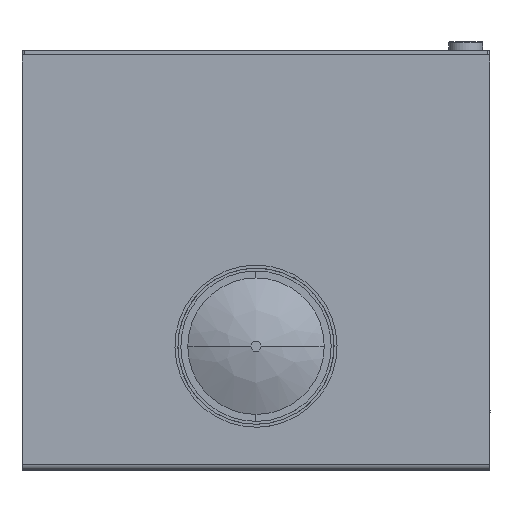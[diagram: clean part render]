
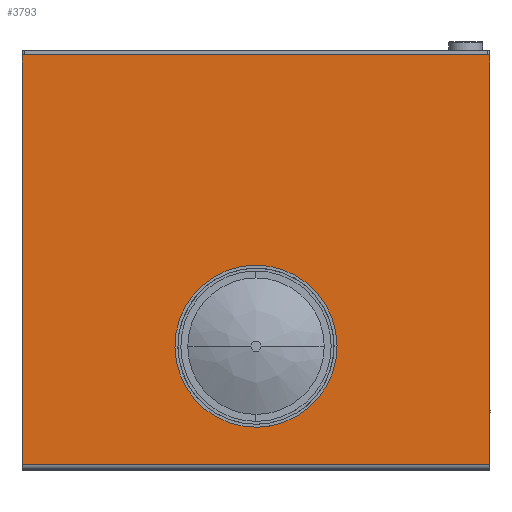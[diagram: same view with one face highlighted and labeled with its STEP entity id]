
A CAD part, top view. The second image highlights one B-rep face of the part: STEP entity #3793.
In plain terms, the highlighted planar face has unit normal (0, 0, 1) as drawn and (-1, 0, 0) by its records, which use the part's own axes.
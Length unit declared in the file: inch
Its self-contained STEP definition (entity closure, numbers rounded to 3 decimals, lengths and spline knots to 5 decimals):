
#260 = CARTESIAN_POINT ( 'NONE',  ( -0.375, 0.125, 48. ) ) ;
#331 = EDGE_CURVE ( 'NONE', #2954, #7187, #813, .T. ) ;
#362 = CARTESIAN_POINT ( 'NONE',  ( -0.375, 0., 48. ) ) ;
#468 = ORIENTED_EDGE ( 'NONE', *, *, #1565, .F. ) ;
#658 = LINE ( 'NONE', #1988, #4154 ) ;
#813 = LINE ( 'NONE', #8894, #7407 ) ;
#842 = EDGE_LOOP ( 'NONE', ( #4191, #5802, #7293, #2823 ) ) ;
#1028 = DIRECTION ( 'NONE',  ( 0., 0., 1. ) ) ;
#1055 = CARTESIAN_POINT ( 'NONE',  ( -0.375, 42.12, 48. ) ) ;
#1091 = DIRECTION ( 'NONE',  ( -1., 0., 0. ) ) ;
#1301 = DIRECTION ( 'NONE',  ( 1., 0., 0. ) ) ;
#1565 = EDGE_CURVE ( 'NONE', #6797, #8681, #4387, .T. ) ;
#1641 = CARTESIAN_POINT ( 'NONE',  ( -0.375, 0.125, 0. ) ) ;
#1988 = CARTESIAN_POINT ( 'NONE',  ( -0.375, 0., 48. ) ) ;
#2147 = EDGE_CURVE ( 'NONE', #6177, #7196, #658, .T. ) ;
#2823 = ORIENTED_EDGE ( 'NONE', *, *, #3914, .T. ) ;
#2954 = VERTEX_POINT ( 'NONE', #4009 ) ;
#3553 = LINE ( 'NONE', #6049, #3763 ) ;
#3763 = VECTOR ( 'NONE', #8046, 39.37008 ) ;
#3793 = ADVANCED_FACE ( 'NONE', ( #4003, #7953 ), #8769, .F. ) ;
#3914 = EDGE_CURVE ( 'NONE', #6177, #2954, #5214, .T. ) ;
#3958 = DIRECTION ( 'NONE',  ( 0., 0., -1. ) ) ;
#4003 = FACE_BOUND ( 'NONE', #6862, .T. ) ;
#4009 = CARTESIAN_POINT ( 'NONE',  ( -0.375, 42.12, 0. ) ) ;
#4154 = VECTOR ( 'NONE', #6136, 39.37008 ) ;
#4191 = ORIENTED_EDGE ( 'NONE', *, *, #331, .T. ) ;
#4387 = CIRCLE ( 'NONE', #8370, 7. ) ;
#4490 = CARTESIAN_POINT ( 'NONE',  ( -0.375, 12.25, 24. ) ) ;
#5195 = CARTESIAN_POINT ( 'NONE',  ( -0.375, 12.25, 17. ) ) ;
#5214 = LINE ( 'NONE', #6975, #6648 ) ;
#5243 = DIRECTION ( 'NONE',  ( -1., 0., 0. ) ) ;
#5802 = ORIENTED_EDGE ( 'NONE', *, *, #6692, .F. ) ;
#6030 = DIRECTION ( 'NONE',  ( 0., 0., 1. ) ) ;
#6049 = CARTESIAN_POINT ( 'NONE',  ( -0.375, 0.125, 48. ) ) ;
#6136 = DIRECTION ( 'NONE',  ( 0., -1., 0. ) ) ;
#6177 = VERTEX_POINT ( 'NONE', #1055 ) ;
#6368 = DIRECTION ( 'NONE',  ( 0., 0., -1. ) ) ;
#6648 = VECTOR ( 'NONE', #6368, 39.37008 ) ;
#6692 = EDGE_CURVE ( 'NONE', #7196, #7187, #3553, .T. ) ;
#6797 = VERTEX_POINT ( 'NONE', #5195 ) ;
#6862 = EDGE_LOOP ( 'NONE', ( #7121, #468 ) ) ;
#6975 = CARTESIAN_POINT ( 'NONE',  ( -0.375, 42.12, 48. ) ) ;
#7121 = ORIENTED_EDGE ( 'NONE', *, *, #8072, .F. ) ;
#7187 = VERTEX_POINT ( 'NONE', #1641 ) ;
#7196 = VERTEX_POINT ( 'NONE', #260 ) ;
#7293 = ORIENTED_EDGE ( 'NONE', *, *, #2147, .F. ) ;
#7378 = AXIS2_PLACEMENT_3D ( 'NONE', #362, #1301, #3958 ) ;
#7407 = VECTOR ( 'NONE', #8103, 39.37008 ) ;
#7953 = FACE_OUTER_BOUND ( 'NONE', #842, .T. ) ;
#8046 = DIRECTION ( 'NONE',  ( 0., 0., -1. ) ) ;
#8072 = EDGE_CURVE ( 'NONE', #8681, #6797, #8437, .T. ) ;
#8103 = DIRECTION ( 'NONE',  ( 0., -1., 0. ) ) ;
#8370 = AXIS2_PLACEMENT_3D ( 'NONE', #4490, #5243, #1028 ) ;
#8437 = CIRCLE ( 'NONE', #9071, 7. ) ;
#8681 = VERTEX_POINT ( 'NONE', #8833 ) ;
#8769 = PLANE ( 'NONE',  #7378 ) ;
#8778 = CARTESIAN_POINT ( 'NONE',  ( -0.375, 12.25, 24. ) ) ;
#8833 = CARTESIAN_POINT ( 'NONE',  ( -0.375, 12.25, 31. ) ) ;
#8894 = CARTESIAN_POINT ( 'NONE',  ( -0.375, 0., 0. ) ) ;
#9071 = AXIS2_PLACEMENT_3D ( 'NONE', #8778, #1091, #6030 ) ;
